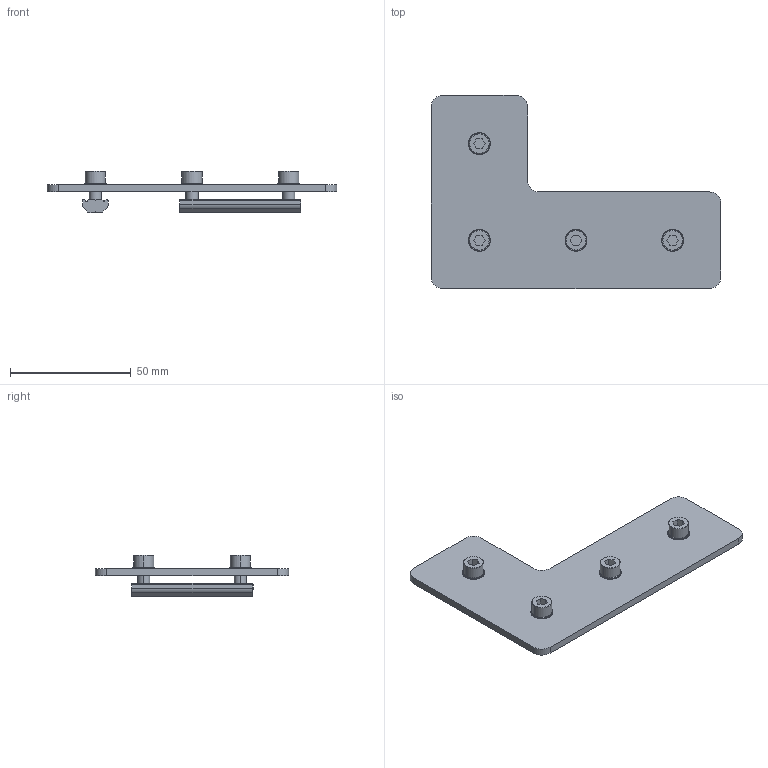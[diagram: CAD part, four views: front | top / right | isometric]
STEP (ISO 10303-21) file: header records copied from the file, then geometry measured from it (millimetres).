
FILE_DESCRIPTION (( 'STEP AP214' ), '1' );
FILE_NAME ('SFP-L40120.STEP', '2019-10-30T08:27:04', ( '微软用户' ), ( '微软中国' ), 'SwSTEP 2.0', 'SolidWorks 2016', '' );
FILE_SCHEMA (( 'AUTOMOTIVE_DESIGN' ));
Length unit declared in the file: millimetre
Products named in the file (5): PTN-M5P40; PTS-M5; PTC-M5L12; SFP-L40120
Assembly tree (11 placements, depth 2):
  SFP-L40120
    SFP-L40120
    PTC-M5L12  x4
    PTS-M5  x4
    PTN-M5P40  x2
Bounding box: 120 x 80 x 17 mm (x, y, z)
Volume: 24826.5 mm3; surface area: 19547.4 mm2
Topology: 11 solids, 11 shells, 858 faces, 2508 edges, 1664 vertices
Faces by surface type: plane 744, cylinder 90, cone 24
Entity records: 8946 total; most frequent: CARTESIAN_POINT 1710, DIRECTION 1504, ORIENTED_EDGE 1500, EDGE_CURVE 750, AXIS2_PLACEMENT_3D 516, VERTEX_POINT 498, VECTOR 472, LINE 472
